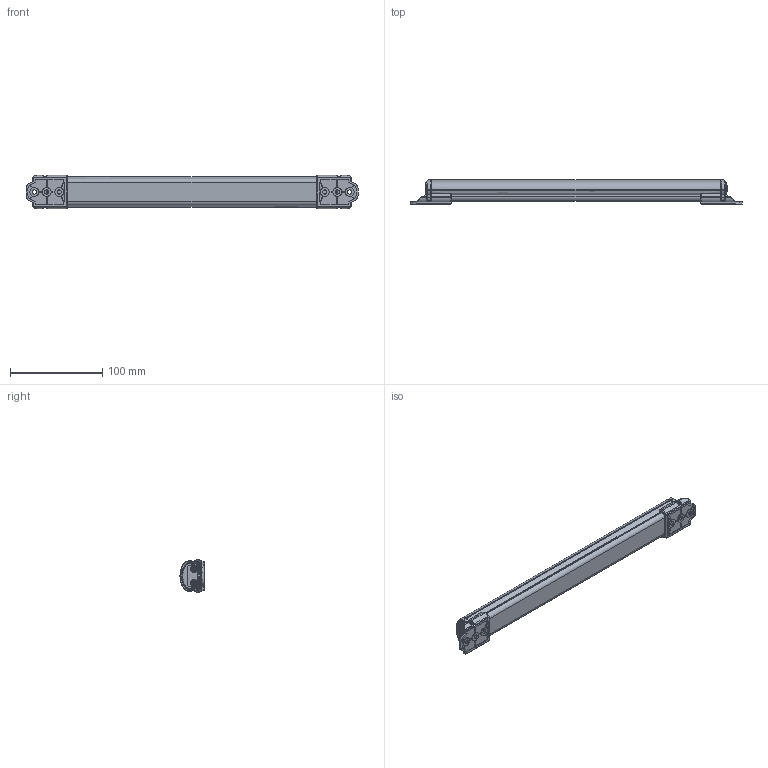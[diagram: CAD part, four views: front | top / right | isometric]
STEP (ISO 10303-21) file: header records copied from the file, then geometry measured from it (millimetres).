
FILE_DESCRIPTION (( 'STEP AP203' ), '1' );
FILE_NAME ('QKR572_3D00152 QCML(C)-300 3D紫賊_220807.STEP', '2022-08-07T06:06:41', ( 'QKR_NOTE119' ), ( '' ), 'SwSTEP 2.0', 'SolidWorks 2019', '' );
FILE_SCHEMA (( 'CONFIG_CONTROL_DESIGN' ));
Length unit declared in the file: millimetre
Products named in the file (1): QKR572_3D00152 QCML(C)-300 3D紫賊_220807
Bounding box: 360.1 x 26.1 x 35.92 mm (x, y, z)
Volume: 218334.4 mm3; surface area: 42564.6 mm2
Topology: 1 solids, 6 shells, 1143 faces, 3005 edges, 1874 vertices
Faces by surface type: cylinder 359, plane 290, bspline 181, torus 167, cone 110, sphere 36
Entity records: 44686 total; most frequent: CARTESIAN_POINT 19003, ORIENTED_EDGE 5946, DIRECTION 4604, EDGE_CURVE 2973, AXIS2_PLACEMENT_3D 1875, VERTEX_POINT 1874, EDGE_LOOP 1197, B_SPLINE_CURVE_WITH_KNOTS 1147
